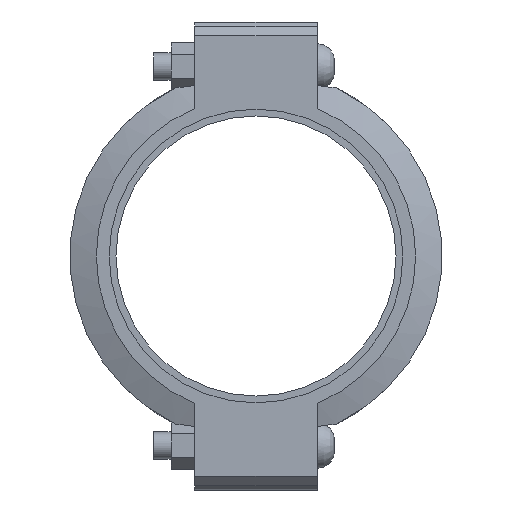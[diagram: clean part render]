
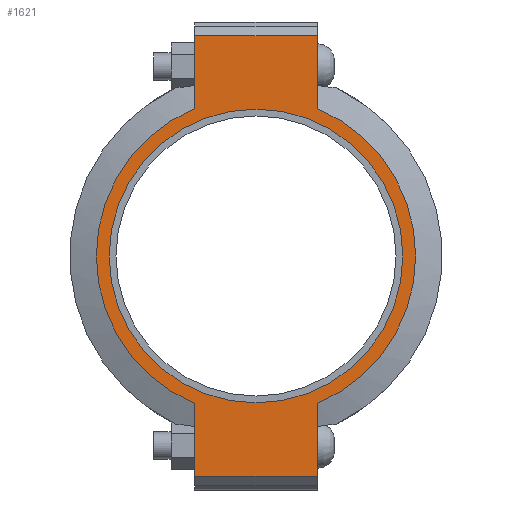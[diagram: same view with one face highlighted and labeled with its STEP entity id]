
A CAD part, left-side view. The second image highlights one B-rep face of the part: STEP entity #1621.
In plain terms, the highlighted planar face has unit normal (-1, 0, 0) as drawn and (0, 0, 1) by its records, which use the part's own axes.
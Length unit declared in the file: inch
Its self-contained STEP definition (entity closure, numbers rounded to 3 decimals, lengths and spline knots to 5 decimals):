
#192=LINE('',#2810,#281);
#203=LINE('',#2861,#292);
#209=LINE('',#2887,#298);
#211=LINE('',#2890,#300);
#212=LINE('',#2895,#301);
#213=LINE('',#2896,#302);
#281=VECTOR('',#2290,0.3937);
#292=VECTOR('',#2321,0.3937);
#298=VECTOR('',#2339,0.3937);
#300=VECTOR('',#2343,0.3937);
#301=VECTOR('',#2348,0.3937);
#302=VECTOR('',#2349,0.3937);
#364=FACE_BOUND('',#541,.T.);
#432=FACE_OUTER_BOUND('',#540,.T.);
#540=EDGE_LOOP('',(#1316,#1317,#1318,#1319,#1320,#1321,#1322,#1323));
#541=EDGE_LOOP('',(#1324));
#623=CIRCLE('',#1858,5.375);
#647=CIRCLE('',#1910,5.845);
#648=CIRCLE('',#1911,5.845);
#719=VERTEX_POINT('',#2636);
#760=VERTEX_POINT('',#2807);
#761=VERTEX_POINT('',#2809);
#778=VERTEX_POINT('',#2856);
#779=VERTEX_POINT('',#2860);
#786=VERTEX_POINT('',#2882);
#787=VERTEX_POINT('',#2886);
#788=VERTEX_POINT('',#2892);
#789=VERTEX_POINT('',#2894);
#883=EDGE_CURVE('',#719,#719,#623,.T.);
#940=EDGE_CURVE('',#761,#760,#192,.T.);
#961=EDGE_CURVE('',#779,#778,#203,.T.);
#972=EDGE_CURVE('',#787,#786,#209,.T.);
#974=EDGE_CURVE('',#787,#760,#211,.T.);
#975=EDGE_CURVE('',#786,#788,#647,.T.);
#976=EDGE_CURVE('',#788,#789,#212,.T.);
#977=EDGE_CURVE('',#779,#789,#213,.T.);
#978=EDGE_CURVE('',#778,#761,#648,.T.);
#1316=ORIENTED_EDGE('',*,*,#974,.F.);
#1317=ORIENTED_EDGE('',*,*,#972,.T.);
#1318=ORIENTED_EDGE('',*,*,#975,.T.);
#1319=ORIENTED_EDGE('',*,*,#976,.T.);
#1320=ORIENTED_EDGE('',*,*,#977,.F.);
#1321=ORIENTED_EDGE('',*,*,#961,.T.);
#1322=ORIENTED_EDGE('',*,*,#978,.T.);
#1323=ORIENTED_EDGE('',*,*,#940,.T.);
#1324=ORIENTED_EDGE('',*,*,#883,.T.);
#1461=PLANE('',#1909);
#1621=ADVANCED_FACE('',(#432,#364),#1461,.T.);
#1858=AXIS2_PLACEMENT_3D('',#2638,#2180,#2181);
#1909=AXIS2_PLACEMENT_3D('',#2891,#2344,#2345);
#1910=AXIS2_PLACEMENT_3D('',#2893,#2346,#2347);
#1911=AXIS2_PLACEMENT_3D('',#2897,#2350,#2351);
#2180=DIRECTION('center_axis',(0.,0.,-1.));
#2181=DIRECTION('ref_axis',(1.,0.,0.));
#2290=DIRECTION('',(1.,0.,0.));
#2321=DIRECTION('',(1.,0.,0.));
#2339=DIRECTION('',(-1.,0.,0.));
#2343=DIRECTION('',(0.,-1.,0.));
#2344=DIRECTION('center_axis',(0.,0.,1.));
#2345=DIRECTION('ref_axis',(-1.,0.,0.));
#2346=DIRECTION('center_axis',(0.,0.,1.));
#2347=DIRECTION('ref_axis',(1.,0.,0.));
#2348=DIRECTION('',(-1.,0.,0.));
#2349=DIRECTION('',(0.,1.,0.));
#2350=DIRECTION('center_axis',(0.,0.,1.));
#2351=DIRECTION('ref_axis',(1.,0.,0.));
#2636=CARTESIAN_POINT('',(-5.375,0.,1.315));
#2638=CARTESIAN_POINT('Origin',(0.,0.,1.315));
#2807=CARTESIAN_POINT('',(8.065,-2.25,1.315));
#2809=CARTESIAN_POINT('',(5.39458,-2.25,1.315));
#2810=CARTESIAN_POINT('',(-8.565,-2.25,1.315));
#2856=CARTESIAN_POINT('',(-5.39458,-2.25,1.315));
#2860=CARTESIAN_POINT('',(-8.065,-2.25,1.315));
#2861=CARTESIAN_POINT('',(-8.565,-2.25,1.315));
#2882=CARTESIAN_POINT('',(5.39458,2.25,1.315));
#2886=CARTESIAN_POINT('',(8.065,2.25,1.315));
#2887=CARTESIAN_POINT('',(8.565,2.25,1.315));
#2890=CARTESIAN_POINT('',(8.065,-1.125,1.315));
#2891=CARTESIAN_POINT('Origin',(0.,0.,
1.315));
#2892=CARTESIAN_POINT('',(-5.39458,2.25,1.315));
#2893=CARTESIAN_POINT('Origin',(0.,0.,1.315));
#2894=CARTESIAN_POINT('',(-8.065,2.25,1.315));
#2895=CARTESIAN_POINT('',(8.565,2.25,1.315));
#2896=CARTESIAN_POINT('',(-8.065,1.125,1.315));
#2897=CARTESIAN_POINT('Origin',(0.,0.,1.315));
